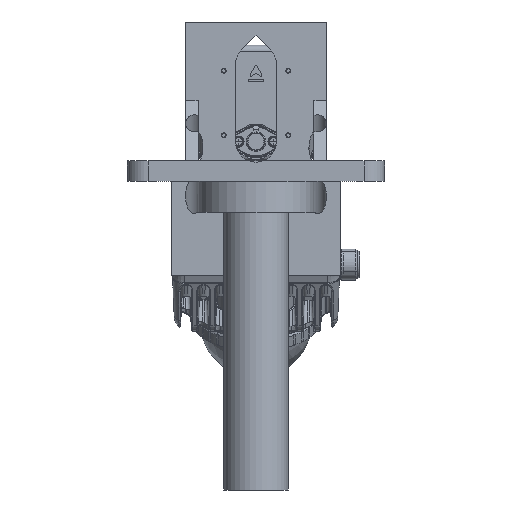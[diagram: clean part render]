
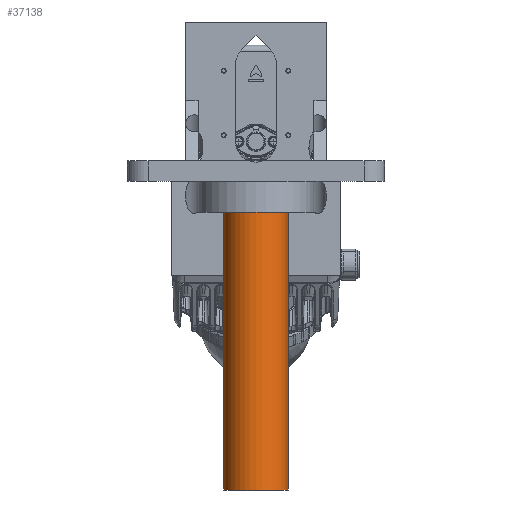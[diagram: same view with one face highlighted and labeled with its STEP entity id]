
A CAD part, left-side view. The second image highlights one B-rep face of the part: STEP entity #37138.
In plain terms, the highlighted cylindrical face has radius 12.5 mm (diameter 25 mm), a full revolution.
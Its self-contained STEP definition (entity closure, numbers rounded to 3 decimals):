
#37138 = ADVANCED_FACE('',(#37139),#37166,.T.);
#37139 = FACE_BOUND('',#37140,.T.);
#37140 = EDGE_LOOP('',(#37141,#37150,#37158,#37165));
#37141 = ORIENTED_EDGE('',*,*,#37142,.F.);
#37142 = EDGE_CURVE('',#37143,#37143,#37145,.T.);
#37143 = VERTEX_POINT('',#37144);
#37144 = CARTESIAN_POINT('',(-72.5,0.,0.));
#37145 = CIRCLE('',#37146,12.5);
#37146 = AXIS2_PLACEMENT_3D('',#37147,#37148,#37149);
#37147 = CARTESIAN_POINT('',(-85.,0.,0.));
#37148 = DIRECTION('',(0.,0.,1.));
#37149 = DIRECTION('',(1.,0.,0.));
#37150 = ORIENTED_EDGE('',*,*,#37151,.F.);
#37151 = EDGE_CURVE('',#37152,#37143,#37154,.T.);
#37152 = VERTEX_POINT('',#37153);
#37153 = CARTESIAN_POINT('',(-72.5,0.,-120.));
#37154 = LINE('',#37155,#37156);
#37155 = CARTESIAN_POINT('',(-72.5,0.,-120.));
#37156 = VECTOR('',#37157,1.);
#37157 = DIRECTION('',(0.,0.,1.));
#37158 = ORIENTED_EDGE('',*,*,#37159,.T.);
#37159 = EDGE_CURVE('',#37152,#37152,#37160,.T.);
#37160 = CIRCLE('',#37161,12.5);
#37161 = AXIS2_PLACEMENT_3D('',#37162,#37163,#37164);
#37162 = CARTESIAN_POINT('',(-85.,0.,-120.));
#37163 = DIRECTION('',(0.,0.,1.));
#37164 = DIRECTION('',(1.,0.,0.));
#37165 = ORIENTED_EDGE('',*,*,#37151,.T.);
#37166 = CYLINDRICAL_SURFACE('',#37167,12.5);
#37167 = AXIS2_PLACEMENT_3D('',#37168,#37169,#37170);
#37168 = CARTESIAN_POINT('',(-85.,0.,-120.));
#37169 = DIRECTION('',(0.,0.,1.));
#37170 = DIRECTION('',(1.,0.,0.));
